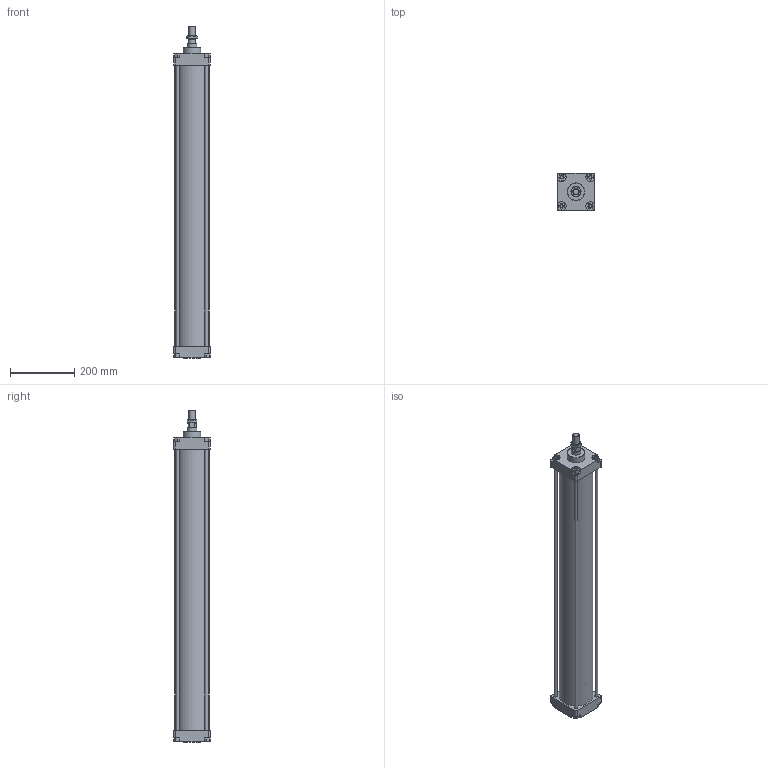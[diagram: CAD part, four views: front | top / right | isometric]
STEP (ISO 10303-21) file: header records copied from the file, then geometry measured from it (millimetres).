
FILE_DESCRIPTION(/* description */ (''),/* implementation_level */ '2;1');
FILE_NAME(/* name */ 'I:\Area Tecnica\Disegni\VARIE-3D\Componenti\CSP\Ø100\130#_100_####_###\130#_100_0800_01A.stp',/* time_stamp */ '2016-11-24T13:52:30+01:00',/* author */ ('Maniean1'),/* organization */ ('Pneumax S.p.A.'),/* preprocessor_version */ 'ST-DEVELOPER v15.2',/* originating_system */ 'Autodesk Inventor 2014',/* authorisation */ '');
FILE_SCHEMA (('AUTOMOTIVE_DESIGN { 1 0 10303 214 3 1 1 }'));
Length unit declared in the file: millimetre
Products named in the file (6): C_130#_100_0800; Testata anteriore_100; Testata posteriore_100; S_130#_100_0800_01A; 130#_100_18F; 130#_100_0800_01A
Bounding box: 115 x 115 x 1034 mm (x, y, z)
Volume: 3198799.9 mm3; surface area: 917600.7 mm2
Topology: 9 solids, 9 shells, 162 faces, 380 edges, 249 vertices
Faces by surface type: plane 105, cylinder 42, cone 15
Full cylindrical faces by diameter (mm): 10 x12, 18.376 x1, 18.5 x1, 19 x2, 20 x1, 28 x1, 30 x3, 55 x2, 100 x2, 106 x1
Entity records: 4530 total; most frequent: CARTESIAN_POINT 785, DIRECTION 764, ORIENTED_EDGE 672, EDGE_CURVE 336, AXIS2_PLACEMENT_3D 271, VERTEX_POINT 244, EDGE_LOOP 236, LINE 222
